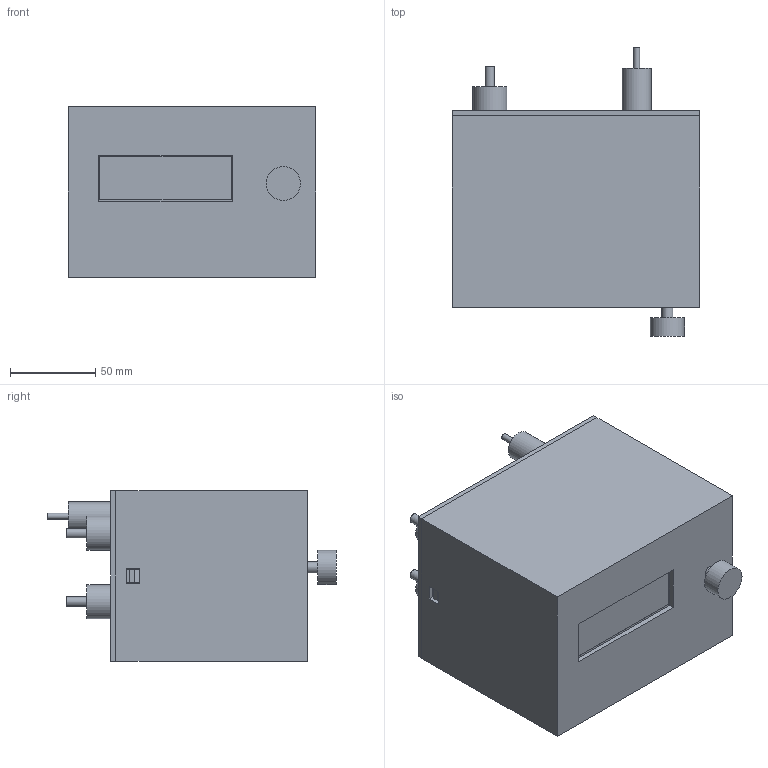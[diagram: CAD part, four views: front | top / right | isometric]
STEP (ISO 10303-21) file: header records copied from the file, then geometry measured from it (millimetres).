
FILE_DESCRIPTION(('Open CASCADE Model'),'2;1');
FILE_NAME('Open CASCADE Shape Model','2026-11-04T18:24:55',('Author'),( 'Open CASCADE'),'Open CASCADE STEP processor 7.8','Open CASCADE 7.8' ,'Unknown');
FILE_SCHEMA(('AUTOMOTIVE_DESIGN { 1 0 10303 214 1 1 1 1 }'));
Length unit declared in the file: millimetre
Products named in the file (71): Laboratory_controller_fit_study_01; 01_Pieces_imprimees; 01_Main_shell_with_LCD_and_A_clips; 02_B_removable_carrier_with_clips; 03_Rear_panel_with_latches; 02_Carte_A_reference; PCB_A; A_U1_ENVELOPE; A_U2_ENVELOPE; A_J1_ENVELOPE; A_J6_ENVELOPE; A_J7_ENVELOPE; A_J2_ENVELOPE; A_J3_ENVELOPE; A_J4_ENVELOPE; A_J5_ENVELOPE; A_JP1_ENVELOPE; A_C1_ENVELOPE; A_C2_ENVELOPE; A_C3_ENVELOPE; A_R1_ENVELOPE; A_R2_ENVELOPE; A_R3_ENVELOPE; A_R4_ENVELOPE; A_R5_ENVELOPE; 03_Carte_B_reference; PCB_B; B_U1_ENVELOPE; B_U2_ENVELOPE; B_U3_ENVELOPE; B_U4_ENVELOPE; B_Q1_ENVELOPE; B_F1_ENVELOPE; B_D1_ENVELOPE; B_D2_ENVELOPE; B_J2_ENVELOPE; B_J3_ENVELOPE; B_J4_ENVELOPE; B_J1_ENVELOPE; B_J6_ENVELOPE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
Assembly tree (70 placements, depth 3):
  Laboratory_controller_fit_study_01
    01_Pieces_imprimees
      01_Main_shell_with_LCD_and_A_clips
      02_B_removable_carrier_with_clips
      03_Rear_panel_with_latches
    02_Carte_A_reference
      PCB_A
      A_U1_ENVELOPE
      A_U2_ENVELOPE
      A_J1_ENVELOPE
      A_J6_ENVELOPE
      A_J7_ENVELOPE
      A_J2_ENVELOPE
      A_J3_ENVELOPE
      A_J4_ENVELOPE
      A_J5_ENVELOPE
      A_JP1_ENVELOPE
      A_C1_ENVELOPE
      A_C2_ENVELOPE
      A_C3_ENVELOPE
      A_R1_ENVELOPE
      A_R2_ENVELOPE
      A_R3_ENVELOPE
      A_R4_ENVELOPE
      A_R5_ENVELOPE
    03_Carte_B_reference
      PCB_B
      B_U1_ENVELOPE
      B_U2_ENVELOPE
      B_U3_ENVELOPE
      B_U4_ENVELOPE
      B_Q1_ENVELOPE
      B_F1_ENVELOPE
      B_D1_ENVELOPE
      B_D2_ENVELOPE
      B_J2_ENVELOPE
      B_J3_ENVELOPE
      B_J4_ENVELOPE
      B_J1_ENVELOPE
      B_J6_ENVELOPE
      B_J7_ENVELOPE
      B_C1_ENVELOPE
      B_C2_ENVELOPE
      B_C3_ENVELOPE
      B_C4_ENVELOPE
      B_C5_ENVELOPE
      B_R1_ENVELOPE
      B_R2_ENVELOPE
      B_R3_ENVELOPE
      B_R4_ENVELOPE
      B_R5_ENVELOPE
      B_R6_ENVELOPE
      B_R7_ENVELOPE
    04_Afficheur_encodeur_reference
      LCD_PCB_98x60_TBD
      LCD_front_bezel_TBD
      LCD_backpack_TBD
      LCD_visible_screen
      Encoder_body_TBD
      Encoder_shaft
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Bounding box: 145 x 169 x 100 mm (x, y, z)
Volume: 439741.8 mm3; surface area: 291326.5 mm2
Topology: 65 solids, 65 shells, 655 faces, 1463 edges, 965 vertices
Faces by surface type: plane 619, cylinder 36
Full cylindrical faces by diameter (mm): 2.2 x12, 3.5 x1, 4.3 x1, 5.5 x2, 6.3 x2, 6.4 x1, 7.2 x1, 12 x6, 12.4 x1, 12.5 x2, 17 x2, 20 x5
Entity records: 38343 total; most frequent: CARTESIAN_POINT 6770, DIRECTION 5465, LINE 3750, VECTOR 3750, ORIENTED_EDGE 2926, PCURVE 2926, DEFINITIONAL_REPRESENTATION 2926, EDGE_CURVE 1463
